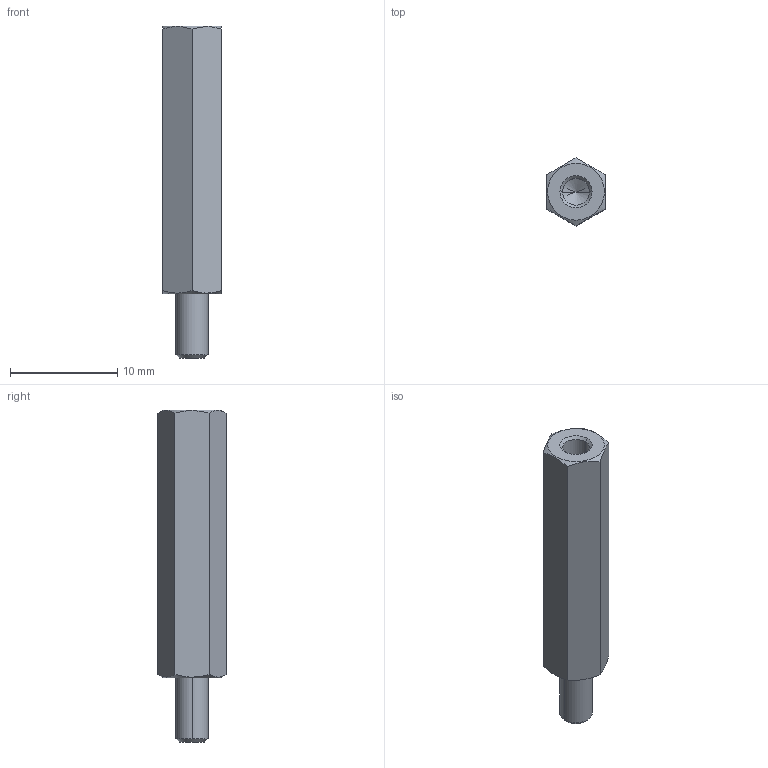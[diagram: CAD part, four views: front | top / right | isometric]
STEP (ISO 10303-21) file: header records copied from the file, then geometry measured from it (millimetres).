
FILE_DESCRIPTION (( 'STEP AP214' ), '1' );
FILE_NAME ('6220-ST-M3-25-B.step', '2021-08-10T12:20:39', ( '' ), ( '' ), 'SwSTEP 2.0', 'SolidWorks 2019', '' );
FILE_SCHEMA (( 'AUTOMOTIVE_DESIGN' ));
Length unit declared in the file: millimetre
Products named in the file (1): 6220-ST-M3-25-B
Bounding box: 5.5 x 6.35 x 31 mm (x, y, z)
Volume: 627 mm3; surface area: 687.5 mm2
Topology: 1 solids, 1 shells, 23 faces, 54 edges, 33 vertices
Faces by surface type: cone 10, plane 9, cylinder 4
Entity records: 784 total; most frequent: CARTESIAN_POINT 205, ORIENTED_EDGE 104, DIRECTION 100, EDGE_CURVE 52, AXIS2_PLACEMENT_3D 40, VERTEX_POINT 33, EDGE_LOOP 25, FACE_OUTER_BOUND 23
